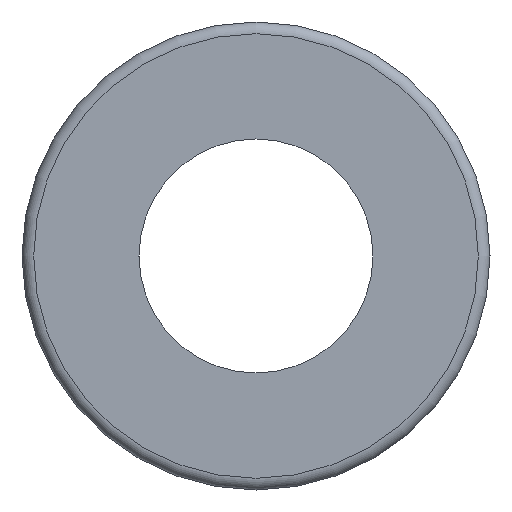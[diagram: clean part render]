
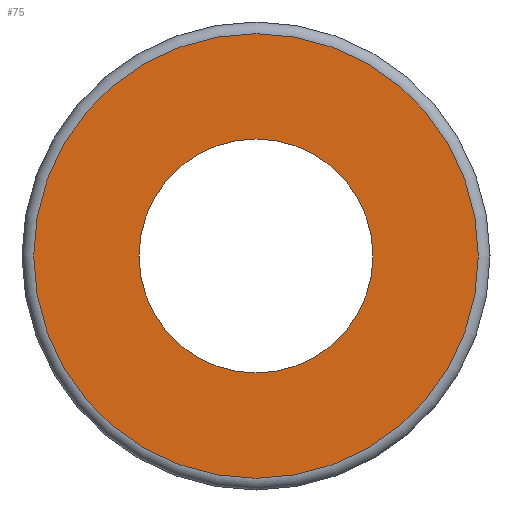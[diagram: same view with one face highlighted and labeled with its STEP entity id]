
A CAD part, left-side view. The second image highlights one B-rep face of the part: STEP entity #75.
In plain terms, the highlighted planar face has unit normal (-1, 0, 0).
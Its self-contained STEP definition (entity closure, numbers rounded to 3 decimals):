
#75=ADVANCED_FACE('',(#90,#91),#92,.T.);
#90=FACE_OUTER_BOUND('',#132,.T.);
#91=FACE_BOUND('',#133,.T.);
#92=PLANE('',#134);
#132=EDGE_LOOP('',(#174));
#133=EDGE_LOOP('',(#175));
#134=AXIS2_PLACEMENT_3D('',#176,#177,#178);
#174=ORIENTED_EDGE('',*,*,#244,.F.);
#175=ORIENTED_EDGE('',*,*,#245,.T.);
#176=CARTESIAN_POINT('',(25.753,4.35,0.0));
#177=DIRECTION('',(-1.0,0.0,0.0));
#178=DIRECTION('',(0.0,0.0,1.0));
#244=EDGE_CURVE('',#258,#258,#259,.T.);
#245=EDGE_CURVE('',#260,#260,#261,.T.);
#258=VERTEX_POINT('',#286);
#259=CIRCLE('',#287,5.7);
#260=VERTEX_POINT('',#288);
#261=CIRCLE('',#289,3.0);
#286=CARTESIAN_POINT('',(25.753,5.7,0.0));
#287=AXIS2_PLACEMENT_3D('',#314,#315,#316);
#288=CARTESIAN_POINT('',(25.753,3.0,0.0));
#289=AXIS2_PLACEMENT_3D('',#317,#318,#319);
#314=CARTESIAN_POINT('',(25.753,0.0,0.0));
#315=DIRECTION('',(1.0,0.0,0.0));
#316=DIRECTION('',(0.0,1.0,0.0));
#317=CARTESIAN_POINT('',(25.753,0.0,0.0));
#318=DIRECTION('',(1.0,0.0,0.0));
#319=DIRECTION('',(0.0,1.0,0.0));
